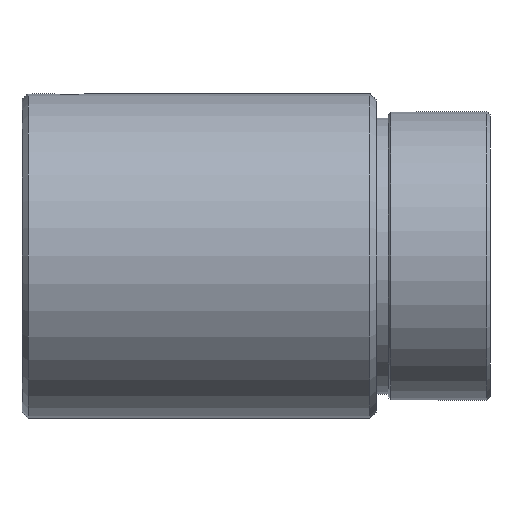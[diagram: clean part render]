
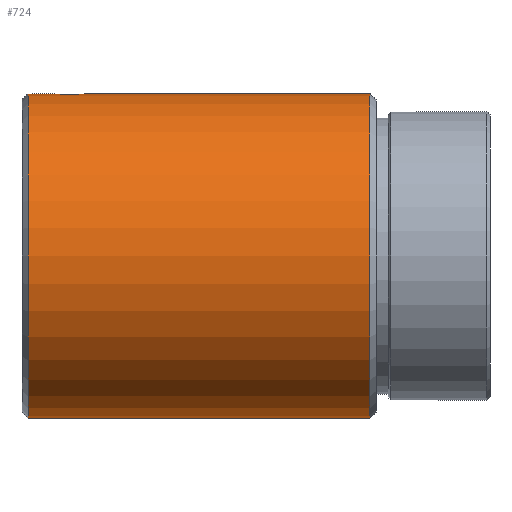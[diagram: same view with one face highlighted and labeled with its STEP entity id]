
A CAD part, front view. The second image highlights one B-rep face of the part: STEP entity #724.
In plain terms, the highlighted cylindrical face has radius 27 mm (diameter 54 mm), a partial arc.
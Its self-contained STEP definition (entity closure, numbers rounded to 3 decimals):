
#24 = CARTESIAN_POINT ( 'NONE',  ( 9.985, -1.528, 26.957 ) ) ;
#30 = CARTESIAN_POINT ( 'NONE',  ( 5.752, -1.107, 26.978 ) ) ;
#44 = CARTESIAN_POINT ( 'NONE',  ( 7.671, -2.484, 26.886 ) ) ;
#52 = CARTESIAN_POINT ( 'NONE',  ( 5.516, -0.325, 26.999 ) ) ;
#96 = ORIENTED_EDGE ( 'NONE', *, *, #565, .T. ) ;
#100 = VERTEX_POINT ( 'NONE', #466 ) ;
#101 = CARTESIAN_POINT ( 'NONE',  ( 10.246, -1.11, 26.978 ) ) ;
#107 = CARTESIAN_POINT ( 'NONE',  ( 6.012, -1.525, 26.957 ) ) ;
#117 = CARTESIAN_POINT ( 'NONE',  ( 8.163, -2.5, 26.884 ) ) ;
#128 = EDGE_CURVE ( 'NONE', #691, #718, #185, .T. ) ;
#132 = CARTESIAN_POINT ( 'NONE',  ( -28.983, 0., 0. ) ) ;
#160 = ORIENTED_EDGE ( 'NONE', *, *, #698, .T. ) ;
#180 = CARTESIAN_POINT ( 'NONE',  ( 10.5, -0.33, 27. ) ) ;
#185 = B_SPLINE_CURVE_WITH_KNOTS ( 'NONE', 3,
 ( #270, #692, #52, #867, #450, #30, #524, #107, #599, #187, #671, #251, #743, #880, #461, #44, #535, #117, #607, #198, #684, #263, #755, #380, #865, #443, #24, #520, #101, #592, #180, #666 ),
 .UNSPECIFIED., .F., .F.,
 ( 4, 2, 2, 2, 2, 2, 2, 2, 2, 2, 2, 2, 2, 2, 2, 4 ),
 ( 0.008, 0.008, 0.009, 0.009, 0.01, 0.01, 0.011, 0.011, 0.012, 0.012, 0.013, 0.013, 0.014, 0.014, 0.015, 0.016 ),
 .UNSPECIFIED. ) ;
#187 = CARTESIAN_POINT ( 'NONE',  ( 6.346, -1.882, 26.935 ) ) ;
#191 = VECTOR ( 'NONE', #835, 1000. ) ;
#198 = CARTESIAN_POINT ( 'NONE',  ( 8.646, -2.421, 26.891 ) ) ;
#206 = FACE_OUTER_BOUND ( 'NONE', #758, .T. ) ;
#215 = CARTESIAN_POINT ( 'NONE',  ( 1., 0., -27. ) ) ;
#234 = LINE ( 'NONE', #906, #352 ) ;
#251 = CARTESIAN_POINT ( 'NONE',  ( 6.746, -2.169, 26.913 ) ) ;
#255 = AXIS2_PLACEMENT_3D ( 'NONE', #278, #766, #343 ) ;
#263 = CARTESIAN_POINT ( 'NONE',  ( 9.107, -2.247, 26.906 ) ) ;
#267 = CARTESIAN_POINT ( 'NONE',  ( 58., 0., 0. ) ) ;
#270 = CARTESIAN_POINT ( 'NONE',  ( 5.5, 0., 27. ) ) ;
#278 = CARTESIAN_POINT ( 'NONE',  ( 1., 0., 0. ) ) ;
#314 = LINE ( 'NONE', #808, #689 ) ;
#343 = DIRECTION ( 'NONE',  ( 0., 0., 1. ) ) ;
#352 = VECTOR ( 'NONE', #562, 1000. ) ;
#380 = CARTESIAN_POINT ( 'NONE',  ( 9.523, -1.99, 26.927 ) ) ;
#387 = AXIS2_PLACEMENT_3D ( 'NONE', #132, #396, #882 ) ;
#396 = DIRECTION ( 'NONE',  ( -1., 0., 0. ) ) ;
#402 = CIRCLE ( 'NONE', #871, 27. ) ;
#435 = ORIENTED_EDGE ( 'NONE', *, *, #128, .F. ) ;
#443 = CARTESIAN_POINT ( 'NONE',  ( 9.882, -1.654, 26.95 ) ) ;
#450 = CARTESIAN_POINT ( 'NONE',  ( 5.628, -0.806, 26.988 ) ) ;
#461 = CARTESIAN_POINT ( 'NONE',  ( 7.351, -2.42, 26.891 ) ) ;
#466 = CARTESIAN_POINT ( 'NONE',  ( 58., 0., -27. ) ) ;
#520 = CARTESIAN_POINT ( 'NONE',  ( 10.168, -1.255, 26.971 ) ) ;
#524 = CARTESIAN_POINT ( 'NONE',  ( 5.83, -1.252, 26.971 ) ) ;
#535 = CARTESIAN_POINT ( 'NONE',  ( 7.833, -2.5, 26.884 ) ) ;
#541 = DIRECTION ( 'NONE',  ( 0., 0., 1. ) ) ;
#542 = EDGE_CURVE ( 'NONE', #100, #674, #903, .T. ) ;
#546 = CYLINDRICAL_SURFACE ( 'NONE', #387, 27. ) ;
#562 = DIRECTION ( 'NONE',  ( -1., 0., 0. ) ) ;
#565 = EDGE_CURVE ( 'NONE', #691, #659, #234, .T. ) ;
#579 = ORIENTED_EDGE ( 'NONE', *, *, #705, .F. ) ;
#584 = ORIENTED_EDGE ( 'NONE', *, *, #542, .F. ) ;
#585 = EDGE_CURVE ( 'NONE', #709, #718, #314, .T. ) ;
#592 = CARTESIAN_POINT ( 'NONE',  ( 10.434, -0.659, 26.994 ) ) ;
#593 = CIRCLE ( 'NONE', #255, 27. ) ;
#599 = CARTESIAN_POINT ( 'NONE',  ( 6.116, -1.651, 26.95 ) ) ;
#607 = CARTESIAN_POINT ( 'NONE',  ( 8.326, -2.484, 26.886 ) ) ;
#659 = VERTEX_POINT ( 'NONE', #702 ) ;
#666 = CARTESIAN_POINT ( 'NONE',  ( 10.5, 0., 27. ) ) ;
#671 = CARTESIAN_POINT ( 'NONE',  ( 6.475, -1.987, 26.927 ) ) ;
#674 = VERTEX_POINT ( 'NONE', #215 ) ;
#684 = CARTESIAN_POINT ( 'NONE',  ( 8.804, -2.373, 26.896 ) ) ;
#688 = CARTESIAN_POINT ( 'NONE',  ( 58., 0., 27. ) ) ;
#689 = VECTOR ( 'NONE', #741, 1000. ) ;
#691 = VERTEX_POINT ( 'NONE', #883 ) ;
#692 = CARTESIAN_POINT ( 'NONE',  ( 5.5, -0.163, 27. ) ) ;
#697 = CARTESIAN_POINT ( 'NONE',  ( 10.5, 0., 27. ) ) ;
#698 = EDGE_CURVE ( 'NONE', #100, #709, #402, .T. ) ;
#702 = CARTESIAN_POINT ( 'NONE',  ( 1., 0., 27. ) ) ;
#705 = EDGE_CURVE ( 'NONE', #674, #659, #593, .T. ) ;
#709 = VERTEX_POINT ( 'NONE', #688 ) ;
#718 = VERTEX_POINT ( 'NONE', #697 ) ;
#724 = ADVANCED_FACE ( 'NONE', ( #206 ), #546, .T. ) ;
#741 = DIRECTION ( 'NONE',  ( -1., 0., 0. ) ) ;
#743 = CARTESIAN_POINT ( 'NONE',  ( 6.89, -2.246, 26.907 ) ) ;
#755 = CARTESIAN_POINT ( 'NONE',  ( 9.251, -2.171, 26.913 ) ) ;
#757 = DIRECTION ( 'NONE',  ( -1., 0., 0. ) ) ;
#758 = EDGE_LOOP ( 'NONE', ( #584, #160, #894, #435, #96, #579 ) ) ;
#766 = DIRECTION ( 'NONE',  ( -1., 0., 0. ) ) ;
#776 = CARTESIAN_POINT ( 'NONE',  ( -28.983, 0., -27. ) ) ;
#808 = CARTESIAN_POINT ( 'NONE',  ( -28.983, 0., 27. ) ) ;
#835 = DIRECTION ( 'NONE',  ( -1., 0., 0. ) ) ;
#865 = CARTESIAN_POINT ( 'NONE',  ( 9.651, -1.884, 26.934 ) ) ;
#867 = CARTESIAN_POINT ( 'NONE',  ( 5.58, -0.648, 26.993 ) ) ;
#871 = AXIS2_PLACEMENT_3D ( 'NONE', #267, #757, #541 ) ;
#880 = CARTESIAN_POINT ( 'NONE',  ( 7.192, -2.372, 26.896 ) ) ;
#882 = DIRECTION ( 'NONE',  ( 0., 0., 1. ) ) ;
#883 = CARTESIAN_POINT ( 'NONE',  ( 5.5, 0., 27. ) ) ;
#894 = ORIENTED_EDGE ( 'NONE', *, *, #585, .T. ) ;
#903 = LINE ( 'NONE', #776, #191 ) ;
#906 = CARTESIAN_POINT ( 'NONE',  ( -28.983, 0., 27. ) ) ;
